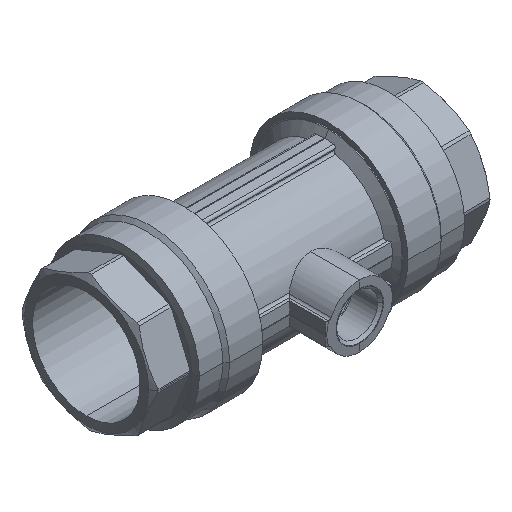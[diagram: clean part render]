
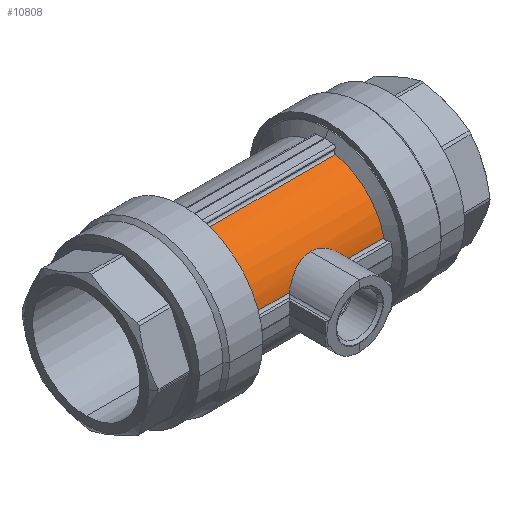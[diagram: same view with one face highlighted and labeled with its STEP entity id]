
A CAD part, isometric view. The second image highlights one B-rep face of the part: STEP entity #10808.
In plain terms, the highlighted cylindrical face has radius 37.25 mm (diameter 74.5 mm), a partial arc.
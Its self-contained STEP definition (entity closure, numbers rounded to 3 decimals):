
#311 = CARTESIAN_POINT ( 'NONE',  ( -10.737, 19.434, 15.072 ) ) ;
#360 = CARTESIAN_POINT ( 'NONE',  ( -10.378, 19.546, 15.321 ) ) ;
#400 = ORIENTED_EDGE ( 'NONE', *, *, #9201, .T. ) ;
#401 = CARTESIAN_POINT ( 'NONE',  ( -6.93, 20.437, 17.159 ) ) ;
#493 = CARTESIAN_POINT ( 'NONE',  ( -5.683, 20.676, 17.611 ) ) ;
#528 = CARTESIAN_POINT ( 'NONE',  ( 8.514, 20.069, 16.43 ) ) ;
#566 = CARTESIAN_POINT ( 'NONE',  ( 6.113, 20.606, 17.483 ) ) ;
#1141 = DIRECTION ( 'NONE',  ( 0., 0., 1. ) ) ;
#1239 = DIRECTION ( 'NONE',  ( 1., 0., 0. ) ) ;
#1395 = CARTESIAN_POINT ( 'NONE',  ( -11.769, 19.095, 14.28 ) ) ;
#1479 = VERTEX_POINT ( 'NONE', #5864 ) ;
#1518 = CARTESIAN_POINT ( 'NONE',  ( 16.577, 17.167, 8.226 ) ) ;
#1697 = CARTESIAN_POINT ( 'NONE',  ( 15.727, 17.547, 9.753 ) ) ;
#1906 = CYLINDRICAL_SURFACE ( 'NONE', #4043, 37.25 ) ;
#2076 = LINE ( 'NONE', #12077, #9944 ) ;
#2441 = CARTESIAN_POINT ( 'NONE',  ( -13.357, 18.522, 12.829 ) ) ;
#2489 = CARTESIAN_POINT ( 'NONE',  ( -0.902, 21.169, 18.5 ) ) ;
#2583 = CARTESIAN_POINT ( 'NONE',  ( -7.333, 20.35, 16.99 ) ) ;
#2696 = CARTESIAN_POINT ( 'NONE',  ( 16.763, 17.081, 7.826 ) ) ;
#2742 = CARTESIAN_POINT ( 'NONE',  ( 13.339, 18.526, 12.826 ) ) ;
#2782 = CARTESIAN_POINT ( 'NONE',  ( -16.763, 17.081, 7.826 ) ) ;
#3395 = AXIS2_PLACEMENT_3D ( 'NONE', #7376, #1239, #4534 ) ;
#3481 = CARTESIAN_POINT ( 'NONE',  ( -15.009, 17.856, 10.825 ) ) ;
#3733 = CARTESIAN_POINT ( 'NONE',  ( 6.929, 20.444, 17.176 ) ) ;
#3780 = CARTESIAN_POINT ( 'NONE',  ( 0., 21.169, 18.5 ) ) ;
#3827 = CARTESIAN_POINT ( 'NONE',  ( 62., 53.5, 0. ) ) ;
#3943 = EDGE_CURVE ( 'NONE', #5827, #11157, #4762, .T. ) ;
#4027 = VERTEX_POINT ( 'NONE', #10961 ) ;
#4043 = AXIS2_PLACEMENT_3D ( 'NONE', #3827, #11991, #1141 ) ;
#4453 = CARTESIAN_POINT ( 'NONE',  ( 0., 21.169, 18.5 ) ) ;
#4505 = CARTESIAN_POINT ( 'NONE',  ( -4.407, 20.881, 17.989 ) ) ;
#4534 = DIRECTION ( 'NONE',  ( 0., 0., 1. ) ) ;
#4623 = CARTESIAN_POINT ( 'NONE',  ( 0.45, 21.169, 18.5 ) ) ;
#4648 = EDGE_CURVE ( 'NONE', #4027, #12898, #12294, .T. ) ;
#4670 = CARTESIAN_POINT ( 'NONE',  ( 15.951, 17.448, 9.381 ) ) ;
#4733 = DIRECTION ( 'NONE',  ( 0., 0., -1. ) ) ;
#4762 = CIRCLE ( 'NONE', #7672, 37.25 ) ;
#4795 = CARTESIAN_POINT ( 'NONE',  ( 39.334, 45.674, 36.419 ) ) ;
#4805 = CARTESIAN_POINT ( 'NONE',  ( -39.334, 45.674, 36.419 ) ) ;
#4898 = CARTESIAN_POINT ( 'NONE',  ( 0., 21.169, 18.5 ) ) ;
#5165 = CARTESIAN_POINT ( 'NONE',  ( 62., 45.674, 36.419 ) ) ;
#5268 = LINE ( 'NONE', #6316, #11039 ) ;
#5324 = DIRECTION ( 'NONE',  ( 1., 0., 0. ) ) ;
#5486 = CARTESIAN_POINT ( 'NONE',  ( -11.433, 19.208, 14.551 ) ) ;
#5529 = CARTESIAN_POINT ( 'NONE',  ( -12.747, 18.752, 13.435 ) ) ;
#5577 = CARTESIAN_POINT ( 'NONE',  ( -15.974, 17.441, 9.373 ) ) ;
#5679 = CARTESIAN_POINT ( 'NONE',  ( 39.334, 53.5, 0. ) ) ;
#5696 = CARTESIAN_POINT ( 'NONE',  ( 1.798, 21.122, 18.418 ) ) ;
#5822 = VERTEX_POINT ( 'NONE', #4805 ) ;
#5827 = VERTEX_POINT ( 'NONE', #5877 ) ;
#5864 = CARTESIAN_POINT ( 'NONE',  ( -39.334, 17.081, 7.826 ) ) ;
#5877 = CARTESIAN_POINT ( 'NONE',  ( 39.334, 17.081, 7.826 ) ) ;
#5929 = DIRECTION ( 'NONE',  ( 1., 0., 0. ) ) ;
#6316 = CARTESIAN_POINT ( 'NONE',  ( 62., 17.081, 7.826 ) ) ;
#6465 = CARTESIAN_POINT ( 'NONE',  ( -1.791, 21.131, 18.434 ) ) ;
#6544 = CARTESIAN_POINT ( 'NONE',  ( -15.261, 17.749, 10.466 ) ) ;
#6788 = CARTESIAN_POINT ( 'NONE',  ( 9.28, 19.865, 16.01 ) ) ;
#7118 = EDGE_CURVE ( 'NONE', #5822, #1479, #12124, .T. ) ;
#7376 = CARTESIAN_POINT ( 'NONE',  ( -39.334, 53.5, 0. ) ) ;
#7672 = AXIS2_PLACEMENT_3D ( 'NONE', #5679, #11967, #4733 ) ;
#7673 = ORIENTED_EDGE ( 'NONE', *, *, #12905, .T. ) ;
#7756 = CARTESIAN_POINT ( 'NONE',  ( 15.016, 17.854, 10.841 ) ) ;
#7838 = CARTESIAN_POINT ( 'NONE',  ( 12.408, 18.871, 13.728 ) ) ;
#7897 = EDGE_CURVE ( 'NONE', #12898, #13299, #12983, .T. ) ;
#8135 = DIRECTION ( 'NONE',  ( -1., 0., 0. ) ) ;
#8712 = CARTESIAN_POINT ( 'NONE',  ( 10.743, 19.438, 15.086 ) ) ;
#8726 = CARTESIAN_POINT ( 'NONE',  ( -14.483, 18.074, 11.519 ) ) ;
#8727 = ORIENTED_EDGE ( 'NONE', *, *, #3943, .T. ) ;
#9201 = EDGE_CURVE ( 'NONE', #11157, #5822, #11901, .T. ) ;
#9447 = EDGE_LOOP ( 'NONE', ( #8727, #400, #10970, #7673, #11746, #11663, #11006 ) ) ;
#9609 = CARTESIAN_POINT ( 'NONE',  ( -14.209, 18.185, 11.855 ) ) ;
#9616 = FACE_OUTER_BOUND ( 'NONE', #9447, .T. ) ;
#9654 = CARTESIAN_POINT ( 'NONE',  ( -16.763, 17.081, 7.826 ) ) ;
#9775 = CARTESIAN_POINT ( 'NONE',  ( 0.901, 21.159, 18.484 ) ) ;
#9869 = CARTESIAN_POINT ( 'NONE',  ( 16.376, 17.258, 8.618 ) ) ;
#9918 = CARTESIAN_POINT ( 'NONE',  ( 11.431, 19.213, 14.571 ) ) ;
#9944 = VECTOR ( 'NONE', #5929, 1000. ) ;
#10763 = CARTESIAN_POINT ( 'NONE',  ( 9.653, 19.76, 15.788 ) ) ;
#10808 = ADVANCED_FACE ( 'NONE', ( #9616 ), #1906, .T. ) ;
#10813 = CARTESIAN_POINT ( 'NONE',  ( 4.436, 20.876, 17.982 ) ) ;
#10845 = CARTESIAN_POINT ( 'NONE',  ( 8.12, 20.167, 16.628 ) ) ;
#10890 = CARTESIAN_POINT ( 'NONE',  ( 3.575, 20.984, 18.173 ) ) ;
#10961 = CARTESIAN_POINT ( 'NONE',  ( 16.763, 17.081, 7.826 ) ) ;
#10970 = ORIENTED_EDGE ( 'NONE', *, *, #7118, .T. ) ;
#11006 = ORIENTED_EDGE ( 'NONE', *, *, #13095, .T. ) ;
#11039 = VECTOR ( 'NONE', #5324, 1000. ) ;
#11157 = VERTEX_POINT ( 'NONE', #4795 ) ;
#11605 = CARTESIAN_POINT ( 'NONE',  ( -6.105, 20.6, 17.469 ) ) ;
#11654 = CARTESIAN_POINT ( 'NONE',  ( -3.543, 20.987, 18.179 ) ) ;
#11663 = ORIENTED_EDGE ( 'NONE', *, *, #4648, .F. ) ;
#11702 = CARTESIAN_POINT ( 'NONE',  ( -9.282, 19.87, 16.027 ) ) ;
#11731 = CARTESIAN_POINT ( 'NONE',  ( 13.638, 18.411, 12.508 ) ) ;
#11746 = ORIENTED_EDGE ( 'NONE', *, *, #7897, .F. ) ;
#11816 = CARTESIAN_POINT ( 'NONE',  ( 2.246, 21.094, 18.369 ) ) ;
#11901 = LINE ( 'NONE', #5165, #12217 ) ;
#11967 = DIRECTION ( 'NONE',  ( -1., 0., 0. ) ) ;
#11991 = DIRECTION ( 'NONE',  ( -1., 0., 0. ) ) ;
#12077 = CARTESIAN_POINT ( 'NONE',  ( 62., 17.081, 7.826 ) ) ;
#12124 = CIRCLE ( 'NONE', #3395, 37.25 ) ;
#12217 = VECTOR ( 'NONE', #8135, 1000. ) ;
#12294 = B_SPLINE_CURVE_WITH_KNOTS ( 'NONE', 3,
 ( #2696, #1518, #9869, #4670, #1697, #7756, #12823, #11731, #2742, #12956, #7838, #9918, #8712, #10763, #6788, #528, #10845, #3733, #566, #10813, #10890, #11816, #5696, #9775, #4623, #3780 ),
 .UNSPECIFIED., .F., .F.,
 ( 4, 2, 2, 2, 2, 2, 2, 2, 2, 2, 2, 2, 4 ),
 ( 0.096, 0.098, 0.099, 0.102, 0.103, 0.104, 0.107, 0.108, 0.11, 0.112, 0.115, 0.116, 0.118 ),
 .UNSPECIFIED. ) ;
#12596 = CARTESIAN_POINT ( 'NONE',  ( -8.521, 20.074, 16.444 ) ) ;
#12694 = CARTESIAN_POINT ( 'NONE',  ( -16.395, 17.251, 8.614 ) ) ;
#12823 = CARTESIAN_POINT ( 'NONE',  ( 14.494, 18.072, 11.529 ) ) ;
#12898 = VERTEX_POINT ( 'NONE', #4898 ) ;
#12905 = EDGE_CURVE ( 'NONE', #1479, #13299, #2076, .T. ) ;
#12956 = CARTESIAN_POINT ( 'NONE',  ( 12.725, 18.756, 13.436 ) ) ;
#12983 = B_SPLINE_CURVE_WITH_KNOTS ( 'NONE', 3,
 ( #4453, #2489, #6465, #11654, #4505, #493, #11605, #401, #2583, #12596, #11702, #360, #311, #5486, #1395, #5529, #2441, #9609, #8726, #3481, #6544, #5577, #12694, #9654 ),
 .UNSPECIFIED., .F., .F.,
 ( 4, 2, 2, 2, 2, 2, 2, 2, 2, 2, 2, 4 ),
 ( 0., 0.003, 0.005, 0.007, 0.008, 0.011, 0.012, 0.013, 0.016, 0.017, 0.019, 0.021 ),
 .UNSPECIFIED. ) ;
#13095 = EDGE_CURVE ( 'NONE', #4027, #5827, #5268, .T. ) ;
#13299 = VERTEX_POINT ( 'NONE', #2782 ) ;
